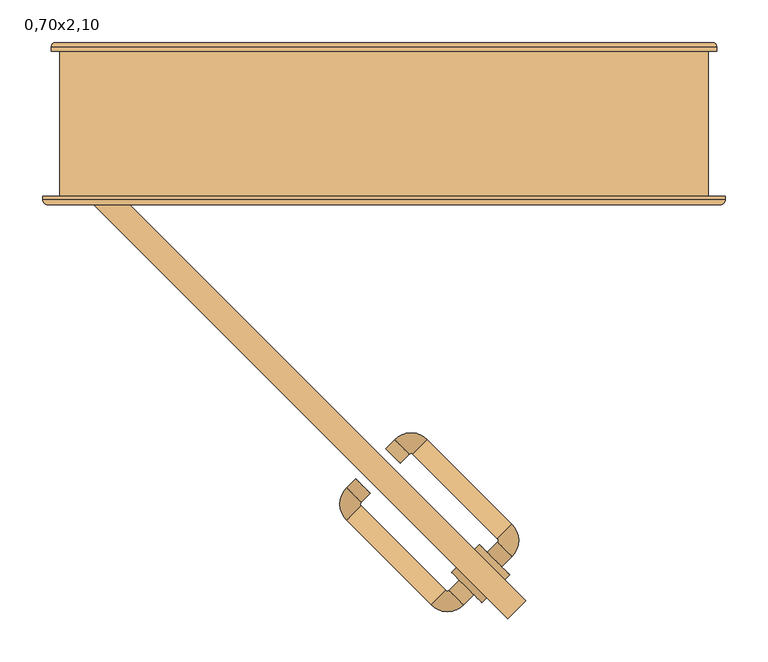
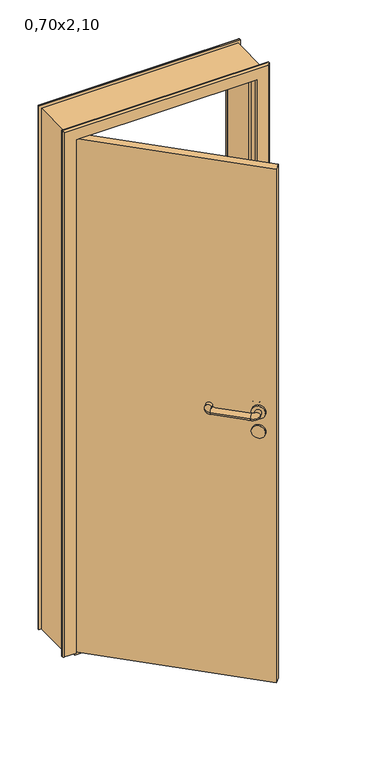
"""IFC4 building model written with IfcOpenShell, lengths in millimetres: door geometry, porta de abrir simples : 0,70x2,10."""

from ifc_helpers import new_model, si_unit, point, frame, frame_2d, origin, origin_with_axes, place, context, project, spatial, polyline, circle_curve, ellipse_curve, trimmed, segment, composite_curve, outline, extrude, faceted_brep, source, transform, mapped, element, save
from ifc_brep_helpers import plane_surface, cylinder_surface, revolved_surface, advanced_brep


def door_0_70x2_10_66915c29(model_context):
    return source(origin(), model_context, "Body", "SolidModel", [
        advanced_brep(
        [(120.9331163, -502.1930009, 1100.0), (137.903679, -519.1635636, 1100.0), (149.9244943, -507.1427484, 1100.0), (132.9539315, -490.1721856, 1100.0), (149.9244943, -468.9589822, 1100.0), (132.9539315, -485.9295449, 1100.0), (50.9295449, -369.9640328, 1100.0), (33.9589822, -386.9345956, 1100.0), (12.7457787, -369.9640328, 1100.0), (29.7163415, -386.9345956, 1100.0), (19.1097398, -397.5411973, 1100.0), (2.139177, -380.5706345, 1100.0)],
        [
            (0, 1, circle_curve(frame((129.4183976, -510.6782823, 1100.0), z_axis=(-0.7071067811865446, -0.7071067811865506, 0.0), x_axis=(0.7071067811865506, -0.7071067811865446, 0.0)), 12.0)),
            (1, 0, circle_curve(frame((129.4183976, -510.6782823, 1100.0), z_axis=(-0.7071067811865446, -0.7071067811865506, 0.0), x_axis=(0.7071067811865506, -0.7071067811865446, 0.0)), 12.0)),
            (1, 2),
            (2, 3, circle_curve(frame((141.4392129, -498.657467, 1100.0), z_axis=(-0.7071067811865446, -0.7071067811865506, 0.0), x_axis=(0.7071067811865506, -0.7071067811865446, 0.0)), 12.0)),
            (3, 0),
            (3, 2, circle_curve(frame((141.4392129, -498.657467, 1100.0), z_axis=(-0.7071067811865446, -0.7071067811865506, 0.0), x_axis=(0.7071067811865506, -0.7071067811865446, 0.0)), 12.0)),
            (4, 5, circle_curve(frame((141.4392129, -477.4442636, 1100.0), z_axis=(0.7071067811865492, -0.7071067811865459, 0.0), x_axis=(0.7071067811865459, 0.7071067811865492, 0.0)), 12.0)),
            (5, 3, circle_curve(frame((130.8326112, -488.0508653, 1100.0), z_axis=(0.0, 0.0, -1.0), x_axis=(0.7071067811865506, -0.7071067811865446, 0.0)), 3.0)),
            (2, 4, circle_curve(frame((130.8326112, -488.0508653, 1100.0), z_axis=(0.0, 0.0, 1.0), x_axis=(0.7071067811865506, -0.7071067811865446, 0.0)), 27.0)),
            (5, 4, circle_curve(frame((141.4392129, -477.4442636, 1100.0), z_axis=(0.7071067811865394, -0.7071067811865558, 0.0), x_axis=(0.7071067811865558, 0.7071067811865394, 0.0)), 12.0)),
            (4, 6),
            (6, 7, circle_curve(frame((42.4442636, -378.4493142, 1100.0), z_axis=(0.7071067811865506, -0.7071067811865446, 0.0), x_axis=(0.7071067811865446, 0.7071067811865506, 0.0)), 12.0)),
            (7, 5),
            (7, 6, circle_curve(frame((42.4442636, -378.4493142, 1100.0), z_axis=(0.7071067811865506, -0.7071067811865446, 0.0), x_axis=(0.7071067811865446, 0.7071067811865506, 0.0)), 12.0)),
            (8, 9, circle_curve(frame((21.2310601, -378.4493142, 1100.0), z_axis=(0.7071067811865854, 0.7071067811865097, 0.0), x_axis=(-0.7071067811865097, 0.7071067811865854, 0.0)), 12.0)),
            (9, 7, circle_curve(frame((31.8376618, -389.0559159, 1100.0), z_axis=(0.0, 0.0, -1.0), x_axis=(0.7071067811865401, 0.707106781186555, 0.0)), 3.0)),
            (6, 8, circle_curve(frame((31.8376618, -389.0559159, 1100.0), z_axis=(0.0, 0.0, 1.0), x_axis=(0.7071067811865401, 0.707106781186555, 0.0)), 27.0)),
            (9, 8, circle_curve(frame((21.2310601, -378.4493142, 1100.0), z_axis=(0.7071067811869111, 0.7071067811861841, 0.0), x_axis=(-0.7071067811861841, 0.7071067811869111, 0.0)), 12.0)),
            (10, 11, circle_curve(frame((10.6244584, -389.0559159, 1100.0), z_axis=(-0.7071067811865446, -0.7071067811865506, 0.0), x_axis=(-0.7071067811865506, 0.7071067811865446, 0.0)), 12.0)),
            (11, 10, circle_curve(frame((10.6244584, -389.0559159, 1100.0), z_axis=(-0.7071067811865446, -0.7071067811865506, 0.0), x_axis=(-0.7071067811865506, 0.7071067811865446, 0.0)), 12.0)),
            (8, 11),
            (10, 9),
        ],
        [
            plane_surface(frame((724.8023074, -1106.062192, 1930.0), z_axis=(-0.7071067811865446, -0.7071067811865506, 0.0), x_axis=(0.0, 0.0, 1.0))),
            cylinder_surface(frame((129.4183976, -510.6782823, 1100.0), z_axis=(-0.7071067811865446, -0.7071067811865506, 0.0), x_axis=(0.7071067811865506, -0.7071067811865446, 0.0)), 12.0),
            revolved_surface(trimmed(ellipse_curve(frame((141.4392129, -498.657467, 1100.0), z_axis=(0.7071067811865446, 0.7071067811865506, 0.0), x_axis=(0.7071067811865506, -0.7071067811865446, 0.0)), 12.0, 12.0), [point((132.9539315, -490.1721856, 1100.0))], [point((149.9244943, -507.1427484, 1100.0))], True, "CARTESIAN"), (130.8326112, -488.0508653, 1930.0), (0.0, 0.0, -1.0)),
            revolved_surface(trimmed(ellipse_curve(frame((141.4392129, -498.657467, 1100.0), z_axis=(0.7071067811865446, 0.7071067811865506, 0.0), x_axis=(0.7071067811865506, -0.7071067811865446, 0.0)), 12.0, 12.0), [point((149.9244943, -507.1427484, 1100.0))], [point((132.9539315, -490.1721856, 1100.0))], True, "CARTESIAN"), (130.8326112, -488.0508653, 1930.0), (0.0, 0.0, -1.0)),
            cylinder_surface(frame((141.4392129, -477.4442636, 1100.0), z_axis=(0.7071067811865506, -0.7071067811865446, 0.0), x_axis=(0.7071067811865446, 0.7071067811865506, 0.0)), 12.0),
            revolved_surface(trimmed(ellipse_curve(frame((42.4442636, -378.4493142, 1100.0), z_axis=(-0.707106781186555, 0.7071067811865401, 0.0), x_axis=(0.7071067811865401, 0.707106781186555, 0.0)), 12.0, 12.0), [point((33.9589822, -386.9345956, 1100.0))], [point((50.9295449, -369.9640328, 1100.0))], True, "CARTESIAN"), (31.8376618, -389.0559159, 1930.0), (0.0, 0.0, -1.0)),
            revolved_surface(trimmed(ellipse_curve(frame((42.4442636, -378.4493142, 1100.0), z_axis=(-0.707106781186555, 0.7071067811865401, 0.0), x_axis=(0.7071067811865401, 0.707106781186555, 0.0)), 12.0, 12.0), [point((50.9295449, -369.9640328, 1100.0))], [point((33.9589822, -386.9345956, 1100.0))], True, "CARTESIAN"), (31.8376618, -389.0559159, 1930.0), (0.0, 0.0, -1.0)),
            plane_surface(frame((606.0083682, -984.4398257, 1930.0), z_axis=(-0.7071067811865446, -0.7071067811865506, 0.0), x_axis=(0.0, 0.0, -1.0))),
            cylinder_surface(frame((21.2310601, -378.4493142, 1100.0), z_axis=(0.7071067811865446, 0.7071067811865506, 0.0), x_axis=(-0.7071067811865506, 0.7071067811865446, 0.0)), 12.0),
        ],
        [
            (0, [[1, 2]]),
            (1, [[3, 4, 5, -2]]),
            (1, [[-5, 6, -3, -1]]),
            (2, [[7, 8, -4, 9]]),
            (3, [[10, -9, -6, -8]]),
            (4, [[11, 12, 13, -7]]),
            (4, [[-13, 14, -11, -10]]),
            (5, [[15, 16, -12, 17]]),
            (6, [[18, -17, -14, -16]]),
            (7, [[19, 20]]),
            (8, [[21, -19, 22, -15]]),
            (8, [[-22, -20, -21, -18]]),
        ],
    ),
        extrude(outline(composite_curve([segment(trimmed(circle_curve(frame_2d((0.0, 25.0)), 25.0), [point((0.0, 50.0))], [point((0.0, 0.0))], False, "CARTESIAN"), True, "CONTINUOUS"), segment(trimmed(circle_curve(frame_2d((0.0, 25.0)), 25.0), [point((0.0, 0.0))], [point((0.0, 50.0))], False, "CARTESIAN"), True, "CONTINUOUS")], self_intersect=False)), frame((106.0838739, -498.657467, 1020.0), z_axis=(0.7071067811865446, 0.7071067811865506, 0.0), x_axis=(0.0, 0.0, 1.0)), (0.0, 0.0, 1.0), 8.0),
        extrude(outline(composite_curve([segment(trimmed(circle_curve(frame_2d((0.0, 25.0)), 25.0), [point((0.0, 50.0))], [point((0.0, 0.0))], False, "CARTESIAN"), True, "CONTINUOUS"), segment(trimmed(circle_curve(frame_2d((0.0, 25.0)), 25.0), [point((0.0, 0.0))], [point((0.0, 50.0))], False, "CARTESIAN"), True, "CONTINUOUS")], self_intersect=False)), frame((106.0838739, -498.657467, 1100.0), z_axis=(0.7071067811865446, 0.7071067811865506, 0.0), x_axis=(0.0, 0.0, 1.0)), (0.0, 0.0, 1.0), 8.0),
        advanced_brep(
        [(105.3767671, -551.6904756, 1100.0), (88.4062043, -534.7199128, 1100.0), (76.3853891, -546.7407281, 1100.0), (93.3559518, -563.7112909, 1100.0), (72.1427484, -546.7407281, 1100.0), (55.1721856, -563.7112909, 1100.0), (-26.852201, -447.7457787, 1100.0), (-43.8227637, -464.7163415, 1100.0), (-26.852201, -443.5031381, 1100.0), (-43.8227637, -426.5325753, 1100.0), (-33.216162, -415.9259736, 1100.0), (-16.2455993, -432.8965363, 1100.0)],
        [
            (0, 1, circle_curve(frame((96.8914857, -543.2051942, 1100.0), z_axis=(0.7071067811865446, 0.7071067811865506, 0.0), x_axis=(-0.7071067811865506, 0.7071067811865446, 0.0)), 12.0)),
            (1, 0, circle_curve(frame((96.8914857, -543.2051942, 1100.0), z_axis=(0.7071067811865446, 0.7071067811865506, 0.0), x_axis=(-0.7071067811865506, 0.7071067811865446, 0.0)), 12.0)),
            (1, 2),
            (2, 3, circle_curve(frame((84.8706704, -555.2260095, 1100.0), z_axis=(0.7071067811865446, 0.7071067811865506, 0.0), x_axis=(-0.7071067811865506, 0.7071067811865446, 0.0)), 12.0)),
            (3, 0),
            (3, 2, circle_curve(frame((84.8706704, -555.2260095, 1100.0), z_axis=(0.7071067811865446, 0.7071067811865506, 0.0), x_axis=(-0.7071067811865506, 0.7071067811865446, 0.0)), 12.0)),
            (4, 5, circle_curve(frame((63.657467, -555.2260095, 1100.0), z_axis=(0.7071067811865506, -0.7071067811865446, 0.0), x_axis=(0.7071067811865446, 0.7071067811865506, 0.0)), 12.0)),
            (5, 3, circle_curve(frame((74.2640687, -544.6194078, 1100.0), z_axis=(0.0, 0.0, 1.0), x_axis=(0.7071067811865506, -0.7071067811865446, 0.0)), 27.0)),
            (2, 4, circle_curve(frame((74.2640687, -544.6194078, 1100.0), z_axis=(0.0, 0.0, -1.0), x_axis=(0.7071067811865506, -0.7071067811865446, 0.0)), 3.0)),
            (5, 4, circle_curve(frame((63.657467, -555.2260095, 1100.0), z_axis=(0.7071067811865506, -0.7071067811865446, 0.0), x_axis=(0.7071067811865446, 0.7071067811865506, 0.0)), 12.0)),
            (4, 6),
            (6, 7, circle_curve(frame((-35.3374824, -456.2310601, 1100.0), z_axis=(0.7071067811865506, -0.7071067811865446, 0.0), x_axis=(0.7071067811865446, 0.7071067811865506, 0.0)), 12.0)),
            (7, 5),
            (7, 6, circle_curve(frame((-35.3374824, -456.2310601, 1100.0), z_axis=(0.7071067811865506, -0.7071067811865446, 0.0), x_axis=(0.7071067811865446, 0.7071067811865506, 0.0)), 12.0)),
            (8, 9, circle_curve(frame((-35.3374824, -435.0178567, 1100.0), z_axis=(-0.7071067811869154, -0.7071067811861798, 0.0), x_axis=(0.7071067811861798, -0.7071067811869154, 0.0)), 12.0)),
            (9, 7, circle_curve(frame((-24.7308807, -445.6244584, 1100.0), z_axis=(0.0, 0.0, 1.0), x_axis=(-0.7071067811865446, -0.7071067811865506, 0.0)), 27.0)),
            (6, 8, circle_curve(frame((-24.7308807, -445.6244584, 1100.0), z_axis=(0.0, 0.0, -1.0), x_axis=(-0.7071067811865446, -0.7071067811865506, 0.0)), 3.0)),
            (9, 8, circle_curve(frame((-35.3374824, -435.0178567, 1100.0), z_axis=(-0.7071067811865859, -0.7071067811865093, 0.0), x_axis=(0.7071067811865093, -0.7071067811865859, 0.0)), 12.0)),
            (10, 11, circle_curve(frame((-24.7308807, -424.411255, 1100.0), z_axis=(0.7071067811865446, 0.7071067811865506, 0.0), x_axis=(0.7071067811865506, -0.7071067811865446, 0.0)), 12.0)),
            (11, 10, circle_curve(frame((-24.7308807, -424.411255, 1100.0), z_axis=(0.7071067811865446, 0.7071067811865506, 0.0), x_axis=(0.7071067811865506, -0.7071067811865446, 0.0)), 12.0)),
            (8, 11),
            (10, 9),
        ],
        [
            plane_surface(frame((692.2753955, -1138.589104, 1930.0), z_axis=(0.7071067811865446, 0.7071067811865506, 0.0), x_axis=(0.0, 0.0, -1.0))),
            cylinder_surface(frame((96.8914857, -543.2051942, 1100.0), z_axis=(0.7071067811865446, 0.7071067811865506, 0.0), x_axis=(-0.7071067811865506, 0.7071067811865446, 0.0)), 12.0),
            revolved_surface(trimmed(ellipse_curve(frame((84.8706704, -555.2260095, 1100.0), z_axis=(-0.7071067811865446, -0.7071067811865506, 0.0), x_axis=(-0.7071067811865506, 0.7071067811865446, 0.0)), 12.0, 12.0), [point((93.3559518, -563.7112909, 1100.0))], [point((76.3853891, -546.7407281, 1100.0))], True, "CARTESIAN"), (74.2640687, -544.6194078, 1930.0), (0.0, 0.0, 1.0)),
            revolved_surface(trimmed(ellipse_curve(frame((84.8706704, -555.2260095, 1100.0), z_axis=(-0.7071067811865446, -0.7071067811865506, 0.0), x_axis=(-0.7071067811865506, 0.7071067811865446, 0.0)), 12.0, 12.0), [point((76.3853891, -546.7407281, 1100.0))], [point((93.3559518, -563.7112909, 1100.0))], True, "CARTESIAN"), (74.2640687, -544.6194078, 1930.0), (0.0, 0.0, 1.0)),
            cylinder_surface(frame((63.657467, -555.2260095, 1100.0), z_axis=(0.7071067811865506, -0.7071067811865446, 0.0), x_axis=(0.7071067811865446, 0.7071067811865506, 0.0)), 12.0),
            revolved_surface(trimmed(ellipse_curve(frame((-35.3374824, -456.2310601, 1100.0), z_axis=(-0.7071067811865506, 0.7071067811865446, 0.0), x_axis=(0.7071067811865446, 0.7071067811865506, 0.0)), 12.0, 12.0), [point((-43.8227637, -464.7163415, 1100.0))], [point((-26.852201, -447.7457787, 1100.0))], True, "CARTESIAN"), (-24.7308807, -445.6244584, 1930.0), (0.0, 0.0, 1.0)),
            revolved_surface(trimmed(ellipse_curve(frame((-35.3374824, -456.2310601, 1100.0), z_axis=(-0.7071067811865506, 0.7071067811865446, 0.0), x_axis=(0.7071067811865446, 0.7071067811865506, 0.0)), 12.0, 12.0), [point((-26.852201, -447.7457787, 1100.0))], [point((-43.8227637, -464.7163415, 1100.0))], True, "CARTESIAN"), (-24.7308807, -445.6244584, 1930.0), (0.0, 0.0, 1.0)),
            plane_surface(frame((570.6530291, -1019.7951647, 1930.0), z_axis=(0.7071067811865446, 0.7071067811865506, 0.0), x_axis=(0.0, 0.0, 1.0))),
            cylinder_surface(frame((-35.3374824, -435.0178567, 1100.0), z_axis=(-0.7071067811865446, -0.7071067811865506, 0.0), x_axis=(0.7071067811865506, -0.7071067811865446, 0.0)), 12.0),
        ],
        [
            (0, [[1, 2]]),
            (1, [[3, 4, 5, -2]]),
            (1, [[-5, 6, -3, -1]]),
            (2, [[7, 8, -4, 9]]),
            (3, [[10, -9, -6, -8]]),
            (4, [[11, 12, 13, -7]]),
            (4, [[-13, 14, -11, -10]]),
            (5, [[15, 16, -12, 17]]),
            (6, [[18, -17, -14, -16]]),
            (7, [[19, 20]]),
            (8, [[21, -19, 22, -15]]),
            (8, [[-22, -20, -21, -18]]),
        ],
    ),
        extrude(outline(composite_curve([segment(trimmed(circle_curve(frame_2d((0.0, 25.0)), 25.0), [point((0.0, 49.9999999))], [point((0.0, 0.0))], False, "CARTESIAN"), True, "CONTINUOUS"), segment(trimmed(circle_curve(frame_2d((0.0, 25.0)), 25.0), [point((0.0, 0.0))], [point((0.0, 49.9999999))], False, "CARTESIAN"), True, "CONTINUOUS")], self_intersect=False)), frame((79.2138162, -525.5275247, 1020.0), z_axis=(0.7071067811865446, 0.7071067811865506, 0.0), x_axis=(0.0, 0.0, 1.0)), (0.0, 0.0, 1.0), 8.0),
        extrude(outline(composite_curve([segment(trimmed(circle_curve(frame_2d((0.0, 25.0)), 25.0), [point((0.0, 49.9999999))], [point((0.0, 0.0))], False, "CARTESIAN"), True, "CONTINUOUS"), segment(trimmed(circle_curve(frame_2d((0.0, 25.0)), 25.0), [point((0.0, 0.0))], [point((0.0, 49.9999999))], False, "CARTESIAN"), True, "CONTINUOUS")], self_intersect=False)), frame((79.2138162, -525.5275247, 1100.0), z_axis=(0.7071067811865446, 0.7071067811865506, 0.0), x_axis=(0.0, 0.0, 1.0)), (0.0, 0.0, 1.0), 8.0),
        advanced_brep(
        [(-390.0, 85.0, 0.0), (-390.0, 90.0, 0.0), (-385.0, 95.0, 0.0), (-340.0, 95.0, 0.0), (-340.0, 85.0, 0.0), (-340.0, 85.0, 2090.0), (340.0, 85.0, 2090.0), (340.0, 85.0, 0.0), (390.0, 85.0, 0.0), (390.0, 85.0, 2140.0), (-390.0, 85.0, 2140.0), (-340.0, 95.0, 2090.0), (-385.0, 95.0, 2135.0), (385.0, 95.0, 2135.0), (385.0, 95.0, 0.0), (340.0, 95.0, 0.0), (340.0, 95.0, 2090.0), (-390.0, 90.0, 2140.0), (390.0, 90.0, 0.0), (390.0, 90.0, 2140.0)],
        [
            (0, 1),
            (1, 2, circle_curve(frame((-385.0, 90.0, 0.0), z_axis=(0.0, 0.0, -1.0), x_axis=(0.0, 1.0, 0.0)), 5.0)),
            (2, 3),
            (3, 4),
            (4, 0),
            (4, 5),
            (5, 6),
            (6, 7),
            (7, 8),
            (8, 9),
            (9, 10),
            (10, 0),
            (3, 11),
            (11, 5),
            (2, 12),
            (12, 13),
            (13, 14),
            (14, 15),
            (15, 16),
            (16, 11),
            (1, 17),
            (17, 12, ellipse_curve(frame((-385.0, 90.0, 2135.0), z_axis=(-0.7071067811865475, 0.0, -0.7071067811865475), x_axis=(0.7071067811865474, 0.0, -0.7071067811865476)), 7.0710678, 5.0)),
            (10, 17),
            (8, 18),
            (18, 19),
            (19, 9),
            (7, 15),
            (14, 18, circle_curve(frame((385.0, 90.0, 0.0), z_axis=(0.0, 0.0, -1.0), x_axis=(0.0, 1.0, 0.0)), 5.0)),
            (6, 16),
            (13, 19, ellipse_curve(frame((385.0, 90.0, 2135.0), z_axis=(0.7071067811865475, 0.0, -0.7071067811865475), x_axis=(0.7071067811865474, 0.0, 0.7071067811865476)), 7.0710678, 5.0)),
            (17, 19),
        ],
        [
            plane_surface(frame((-380.0, 85.0, 0.0), z_axis=(0.0, 0.0, -1.0), x_axis=(0.0, 1.0, 0.0))),
            plane_surface(frame((-390.0, 85.0, 0.0), z_axis=(0.0, -1.0, 0.0), x_axis=(0.0, 0.0, 1.0))),
            plane_surface(frame((-340.0, 85.0, 0.0), z_axis=(1.0, 0.0, 0.0), x_axis=(0.0, 0.0, 1.0))),
            plane_surface(frame((-340.0, 95.0, 0.0), z_axis=(0.0, 1.0, 0.0), x_axis=(0.0, 0.0, 1.0))),
            cylinder_surface(frame((-385.0, 90.0, 0.0), z_axis=(0.0, 0.0, -1.0), x_axis=(0.0, 1.0, 0.0)), 5.0),
            plane_surface(frame((-390.0, 90.0, 0.0), z_axis=(-1.0, 0.0, 0.0), x_axis=(0.0, 0.0, 1.0))),
            plane_surface(frame((390.0, 90.0, 2140.0), z_axis=(1.0, 0.0, 0.0), x_axis=(0.0, 0.0, -1.0))),
            plane_surface(frame((380.0, 85.0, 0.0), z_axis=(0.0, 0.0, -1.0), x_axis=(0.0, 1.0, 0.0))),
            plane_surface(frame((340.0, 85.0, 2090.0), z_axis=(-1.0, 0.0, 0.0), x_axis=(0.0, 0.0, -1.0))),
            cylinder_surface(frame((385.0, 90.0, 2130.0), z_axis=(0.0, 0.0, 1.0), x_axis=(0.0, 1.0, 0.0)), 5.0),
            plane_surface(frame((-340.0, 85.0, 2090.0), z_axis=(0.0, 0.0, -1.0), x_axis=(1.0, 0.0, 0.0))),
            cylinder_surface(frame((-380.0, 90.0, 2135.0), z_axis=(-1.0, 0.0, 0.0), x_axis=(0.0, 1.0, 0.0)), 5.0),
            plane_surface(frame((-390.0, 90.0, 2140.0), z_axis=(0.0, 0.0, 1.0), x_axis=(1.0, 0.0, 0.0))),
        ],
        [
            (0, [[1, 2, 3, 4, 5]]),
            (1, [[6, 7, 8, 9, 10, 11, 12, -5]]),
            (2, [[13, 14, -6, -4]]),
            (3, [[15, 16, 17, 18, 19, 20, -13, -3]]),
            (4, [[21, 22, -15, -2]]),
            (5, [[-12, 23, -21, -1]]),
            (6, [[-10, 24, 25, 26]]),
            (7, [[-9, 27, -18, 28, -24]]),
            (8, [[-19, -27, -8, 29]]),
            (9, [[-25, -28, -17, 30]]),
            (10, [[-20, -29, -7, -14]]),
            (11, [[31, -30, -16, -22]]),
            (12, [[-11, -26, -31, -23]]),
        ],
    ),
        advanced_brep(
        [(400.0, -85.0, 0.0), (400.0, -89.1699538, 0.0), (394.1699538, -95.0, 0.0), (350.0, -95.0, 0.0), (350.0, -85.0, 0.0), (350.0, -85.0, 2100.0), (-350.0, -85.0, 2100.0), (-350.0, -85.0, 0.0), (-400.0, -85.0, 0.0), (-400.0, -85.0, 2150.0), (400.0, -85.0, 2150.0), (350.0, -95.0, 2100.0), (394.1699538, -95.0, 2144.1699538), (-394.1699538, -95.0, 2144.1699538), (-394.1699538, -95.0, 0.0), (-350.0, -95.0, 0.0), (-350.0, -95.0, 2100.0), (400.0, -89.1699538, 2150.0), (-400.0, -89.1699538, 0.0), (-400.0, -89.1699538, 2150.0)],
        [
            (0, 1),
            (1, 2, circle_curve(frame((394.1699538, -89.1699538, 0.0), z_axis=(0.0, 0.0, -1.0), x_axis=(0.0, 1.0, 0.0)), 5.8300462)),
            (2, 3),
            (3, 4),
            (4, 0),
            (4, 5),
            (5, 6),
            (6, 7),
            (7, 8),
            (8, 9),
            (9, 10),
            (10, 0),
            (3, 11),
            (11, 5),
            (2, 12),
            (12, 13),
            (13, 14),
            (14, 15),
            (15, 16),
            (16, 11),
            (1, 17),
            (17, 12, ellipse_curve(frame((394.1699538, -89.1699538, 2144.1699538), z_axis=(0.7071067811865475, 0.0, -0.7071067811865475), x_axis=(-0.7071067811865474, 0.0, -0.7071067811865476)), 8.2449304, 5.8300462)),
            (10, 17),
            (8, 18),
            (18, 19),
            (19, 9),
            (7, 15),
            (14, 18, circle_curve(frame((-394.1699538, -89.1699538, 0.0), z_axis=(0.0, 0.0, -1.0), x_axis=(0.0, 1.0, 0.0)), 5.8300462)),
            (6, 16),
            (13, 19, ellipse_curve(frame((-394.1699538, -89.1699538, 2144.1699538), z_axis=(-0.7071067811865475, 0.0, -0.7071067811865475), x_axis=(-0.7071067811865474, 0.0, 0.7071067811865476)), 8.2449304, 5.8300462)),
            (17, 19),
        ],
        [
            plane_surface(frame((380.0, -85.0, 0.0), z_axis=(0.0, 0.0, -1.0), x_axis=(0.0, 1.0, 0.0))),
            plane_surface(frame((400.0, -85.0, 0.0), z_axis=(0.0, 1.0, 0.0), x_axis=(0.0, 0.0, 1.0))),
            plane_surface(frame((350.0, -85.0, 0.0), z_axis=(-1.0, 0.0, 0.0), x_axis=(0.0, 0.0, 1.0))),
            plane_surface(frame((350.0, -95.0, 0.0), z_axis=(0.0, -1.0, 0.0), x_axis=(0.0, 0.0, 1.0))),
            cylinder_surface(frame((394.1699538, -89.1699538, 0.0), z_axis=(0.0, 0.0, -1.0), x_axis=(0.0, 1.0, 0.0)), 5.8300462),
            plane_surface(frame((400.0, -89.1699538, 0.0), z_axis=(1.0, 0.0, 0.0), x_axis=(0.0, 0.0, 1.0))),
            plane_surface(frame((-400.0, -89.1699538, 2150.0), z_axis=(-1.0, 0.0, 0.0), x_axis=(0.0, 0.0, -1.0))),
            plane_surface(frame((-380.0, -85.0, 0.0), z_axis=(0.0, 0.0, -1.0), x_axis=(0.0, 1.0, 0.0))),
            plane_surface(frame((-350.0, -85.0, 2100.0), z_axis=(1.0, 0.0, 0.0), x_axis=(0.0, 0.0, -1.0))),
            cylinder_surface(frame((-394.1699538, -89.1699538, 2130.0), z_axis=(0.0, 0.0, 1.0), x_axis=(0.0, 1.0, 0.0)), 5.8300462),
            plane_surface(frame((350.0, -85.0, 2100.0), z_axis=(0.0, 0.0, -1.0), x_axis=(-1.0, 0.0, 0.0))),
            cylinder_surface(frame((380.0, -89.1699538, 2144.1699538), z_axis=(1.0, 0.0, 0.0), x_axis=(0.0, 1.0, 0.0)), 5.8300462),
            plane_surface(frame((400.0, -89.1699538, 2150.0), z_axis=(0.0, 0.0, 1.0), x_axis=(-1.0, 0.0, 0.0))),
        ],
        [
            (0, [[1, 2, 3, 4, 5]]),
            (1, [[6, 7, 8, 9, 10, 11, 12, -5]]),
            (2, [[13, 14, -6, -4]]),
            (3, [[15, 16, 17, 18, 19, 20, -13, -3]]),
            (4, [[21, 22, -15, -2]]),
            (5, [[-12, 23, -21, -1]]),
            (6, [[-10, 24, 25, 26]]),
            (7, [[-9, 27, -18, 28, -24]]),
            (8, [[-19, -27, -8, 29]]),
            (9, [[-25, -28, -17, 30]]),
            (10, [[-20, -29, -7, -14]]),
            (11, [[31, -30, -16, -22]]),
            (12, [[-11, -26, -31, -23]]),
        ],
    ),
        faceted_brep([(380.0, 85.0, 0.0), (380.0, -85.0, 0.0), (350.0, -85.0, 0.0), (350.0, -55.0, 0.0), (340.0, -55.0, 0.0), (340.0, 85.0, 0.0), (340.0, 85.0, 2090.0), (-340.0, 85.0, 2090.0), (-340.0, 85.0, 0.0), (-380.0, 85.0, 0.0), (-380.0, 85.0, 2130.0), (380.0, 85.0, 2130.0), (340.0, -55.0, 2090.0), (350.0, -55.0, 2100.0), (-350.0, -55.0, 2100.0), (-350.0, -55.0, 0.0), (-340.0, -55.0, 0.0), (-340.0, -55.0, 2090.0), (350.0, -85.0, 2100.0), (380.0, -85.0, 2130.0), (-380.0, -85.0, 2130.0), (-380.0, -85.0, 0.0), (-350.0, -85.0, 0.0), (-350.0, -85.0, 2100.0)], [[[0, 1, 2, 3, 4, 5]], [[5, 6, 7, 8, 9, 10, 11, 0]], [[4, 12, 6, 5]], [[3, 13, 14, 15, 16, 17, 12, 4]], [[2, 18, 13, 3]], [[1, 19, 20, 21, 22, 23, 18, 2]], [[0, 11, 19, 1]], [[10, 9, 21, 20]], [[9, 8, 16, 15, 22, 21]], [[17, 16, 8, 7]], [[23, 22, 15, 14]], [[12, 17, 7, 6]], [[18, 23, 14, 13]], [[11, 10, 20, 19]]]),
        extrude(outline(polyline([(-350.0, -85.0), (-350.0, -55.0), (-340.0, -55.0), (-340.0, 85.0), (340.0, 85.0), (340.0, -55.0), (350.0, -55.0), (350.0, -85.0), (-350.0, -85.0)])), frame((0.0, 0.0, -15.0), z_axis=(0.0, 0.0, 1.0), x_axis=(1.0, 0.0, 0.0)), (0.0, 0.0, 1.0), 20.0),
        extrude(outline(polyline([(144.9747468, -579.9747468), (-350.0, -85.0), (-328.7867966, -63.7867966), (166.1879503, -558.7615434), (144.9747468, -579.9747468)])), origin_with_axes(), (0.0, 0.0, 1.0), 2100.0),
    ])


if __name__ == "__main__":
    model = new_model("IFC4")
    model_context = context("Model", 3, world=origin())
    ifc_project = project(units=[si_unit("LENGTHUNIT", "METRE", prefix="MILLI")], contexts=[model_context])
    site = spatial("IfcSite", under=ifc_project)
    building = spatial("IfcBuilding", under=site)
    placement = place(None, origin())
    door_0_70x2_10_shape = door_0_70x2_10_66915c29(model_context)
    element("IfcDoor", 1, ObjectType="porta de abrir simples : 0,70x2,10", at=placement, inside=building, context=model_context, shape_type="MappedRepresentation", body=[
        mapped(door_0_70x2_10_shape, transform((0.0, 0.0, 0.0), x_axis=(1.0, 0.0, 0.0), y_axis=(0.0, 1.0, 0.0), z_axis=(0.0, 0.0, 1.0))),
    ])
    save(model, "model.ifc")
